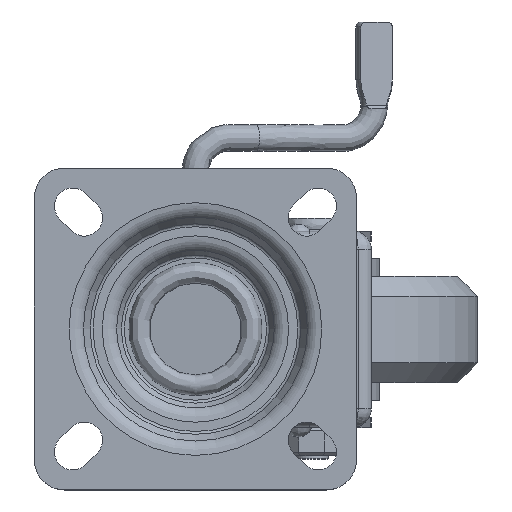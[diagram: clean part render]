
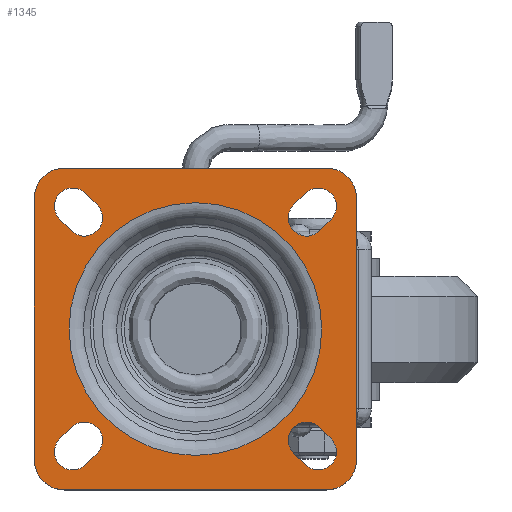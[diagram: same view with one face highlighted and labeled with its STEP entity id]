
A CAD part, top view. The second image highlights one B-rep face of the part: STEP entity #1345.
In plain terms, the highlighted planar face has unit normal (0, 0, 1).
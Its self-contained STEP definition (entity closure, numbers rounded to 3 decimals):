
#1345=ADVANCED_FACE('',(#3243,#3244,#3245,#3246,#3247,#3248),#1745,.F.);
#1745=PLANE('',#9476);
#2213=LINE('',#18009,#2788);
#2214=LINE('',#18014,#2789);
#2215=LINE('',#18020,#2790);
#2216=LINE('',#18024,#2791);
#2217=LINE('',#18027,#2792);
#2218=LINE('',#18032,#2793);
#2219=LINE('',#18036,#2794);
#2220=LINE('',#18040,#2795);
#2221=LINE('',#18046,#2796);
#2222=LINE('',#18050,#2797);
#2223=LINE('',#18051,#2798);
#2224=LINE('',#18056,#2799);
#2788=VECTOR('',#10875,1.);
#2789=VECTOR('',#10878,1.);
#2790=VECTOR('',#10883,1.);
#2791=VECTOR('',#10886,1.);
#2792=VECTOR('',#10889,1.);
#2793=VECTOR('',#10892,1.);
#2794=VECTOR('',#10895,1.);
#2795=VECTOR('',#10898,1.);
#2796=VECTOR('',#10903,1.);
#2797=VECTOR('',#10906,1.);
#2798=VECTOR('',#10907,1.);
#2799=VECTOR('',#10910,1.);
#3243=FACE_BOUND('',#3617,.T.);
#3244=FACE_BOUND('',#3618,.T.);
#3245=FACE_BOUND('',#3619,.T.);
#3246=FACE_BOUND('',#3620,.T.);
#3247=FACE_BOUND('',#3621,.T.);
#3248=FACE_BOUND('',#3622,.T.);
#3617=EDGE_LOOP('',(#5176,#5177,#5178,#5179));
#3618=EDGE_LOOP('',(#5180,#5181,#5182,#5183));
#3619=EDGE_LOOP('',(#5184));
#3620=EDGE_LOOP('',(#5185,#5186,#5187,#5188,#5189,#5190,#5191,#5192));
#3621=EDGE_LOOP('',(#5193,#5194,#5195,#5196));
#3622=EDGE_LOOP('',(#5197,#5198,#5199,#5200));
#5176=ORIENTED_EDGE('',*,*,#8186,.F.);
#5177=ORIENTED_EDGE('',*,*,#8187,.F.);
#5178=ORIENTED_EDGE('',*,*,#8188,.F.);
#5179=ORIENTED_EDGE('',*,*,#8189,.F.);
#5180=ORIENTED_EDGE('',*,*,#8190,.T.);
#5181=ORIENTED_EDGE('',*,*,#8191,.T.);
#5182=ORIENTED_EDGE('',*,*,#8192,.T.);
#5183=ORIENTED_EDGE('',*,*,#8193,.T.);
#5184=ORIENTED_EDGE('',*,*,#8194,.F.);
#5185=ORIENTED_EDGE('',*,*,#8195,.T.);
#5186=ORIENTED_EDGE('',*,*,#8196,.T.);
#5187=ORIENTED_EDGE('',*,*,#8197,.T.);
#5188=ORIENTED_EDGE('',*,*,#8198,.T.);
#5189=ORIENTED_EDGE('',*,*,#8199,.F.);
#5190=ORIENTED_EDGE('',*,*,#8200,.T.);
#5191=ORIENTED_EDGE('',*,*,#8201,.T.);
#5192=ORIENTED_EDGE('',*,*,#8202,.T.);
#5193=ORIENTED_EDGE('',*,*,#8203,.T.);
#5194=ORIENTED_EDGE('',*,*,#8204,.T.);
#5195=ORIENTED_EDGE('',*,*,#8205,.T.);
#5196=ORIENTED_EDGE('',*,*,#8206,.T.);
#5197=ORIENTED_EDGE('',*,*,#8207,.F.);
#5198=ORIENTED_EDGE('',*,*,#8208,.F.);
#5199=ORIENTED_EDGE('',*,*,#8209,.F.);
#5200=ORIENTED_EDGE('',*,*,#8210,.F.);
#7137=VERTEX_POINT('',#18010);
#7138=VERTEX_POINT('',#18011);
#7139=VERTEX_POINT('',#18013);
#7140=VERTEX_POINT('',#18015);
#7141=VERTEX_POINT('',#18018);
#7142=VERTEX_POINT('',#18019);
#7143=VERTEX_POINT('',#18021);
#7144=VERTEX_POINT('',#18023);
#7145=VERTEX_POINT('',#18026);
#7146=VERTEX_POINT('',#18028);
#7147=VERTEX_POINT('',#18029);
#7148=VERTEX_POINT('',#18031);
#7149=VERTEX_POINT('',#18033);
#7150=VERTEX_POINT('',#18035);
#7151=VERTEX_POINT('',#18037);
#7152=VERTEX_POINT('',#18039);
#7153=VERTEX_POINT('',#18041);
#7154=VERTEX_POINT('',#18044);
#7155=VERTEX_POINT('',#18045);
#7156=VERTEX_POINT('',#18047);
#7157=VERTEX_POINT('',#18049);
#7158=VERTEX_POINT('',#18052);
#7159=VERTEX_POINT('',#18053);
#7160=VERTEX_POINT('',#18055);
#7161=VERTEX_POINT('',#18057);
#8186=EDGE_CURVE('',#7137,#7138,#2213,.T.);
#8187=EDGE_CURVE('',#7139,#7137,#8977,.T.);
#8188=EDGE_CURVE('',#7140,#7139,#2214,.T.);
#8189=EDGE_CURVE('',#7138,#7140,#8978,.T.);
#8190=EDGE_CURVE('',#7141,#7142,#8979,.T.);
#8191=EDGE_CURVE('',#7142,#7143,#2215,.T.);
#8192=EDGE_CURVE('',#7143,#7144,#8980,.T.);
#8193=EDGE_CURVE('',#7144,#7141,#2216,.T.);
#8194=EDGE_CURVE('',#7145,#7145,#8981,.T.);
#8195=EDGE_CURVE('',#7146,#7147,#2217,.T.);
#8196=EDGE_CURVE('',#7147,#7148,#8982,.T.);
#8197=EDGE_CURVE('',#7148,#7149,#2218,.T.);
#8198=EDGE_CURVE('',#7149,#7150,#8983,.T.);
#8199=EDGE_CURVE('',#7151,#7150,#2219,.T.);
#8200=EDGE_CURVE('',#7151,#7152,#8984,.T.);
#8201=EDGE_CURVE('',#7152,#7153,#2220,.T.);
#8202=EDGE_CURVE('',#7153,#7146,#8985,.T.);
#8203=EDGE_CURVE('',#7154,#7155,#8986,.T.);
#8204=EDGE_CURVE('',#7155,#7156,#2221,.T.);
#8205=EDGE_CURVE('',#7156,#7157,#8987,.T.);
#8206=EDGE_CURVE('',#7157,#7154,#2222,.T.);
#8207=EDGE_CURVE('',#7158,#7159,#2223,.T.);
#8208=EDGE_CURVE('',#7160,#7158,#8988,.T.);
#8209=EDGE_CURVE('',#7161,#7160,#2224,.T.);
#8210=EDGE_CURVE('',#7159,#7161,#8989,.T.);
#8977=CIRCLE('',#9463,5.5);
#8978=CIRCLE('',#9464,5.5);
#8979=CIRCLE('',#9465,5.5);
#8980=CIRCLE('',#9466,5.5);
#8981=CIRCLE('',#9467,38.077);
#8982=CIRCLE('',#9468,9.);
#8983=CIRCLE('',#9469,9.);
#8984=CIRCLE('',#9470,9.);
#8985=CIRCLE('',#9471,9.);
#8986=CIRCLE('',#9472,5.5);
#8987=CIRCLE('',#9473,5.5);
#8988=CIRCLE('',#9474,5.5);
#8989=CIRCLE('',#9475,5.5);
#9463=AXIS2_PLACEMENT_3D('',#18012,#10876,#10877);
#9464=AXIS2_PLACEMENT_3D('',#18016,#10879,#10880);
#9465=AXIS2_PLACEMENT_3D('',#18017,#10881,#10882);
#9466=AXIS2_PLACEMENT_3D('',#18022,#10884,#10885);
#9467=AXIS2_PLACEMENT_3D('',#18025,#10887,#10888);
#9468=AXIS2_PLACEMENT_3D('',#18030,#10890,#10891);
#9469=AXIS2_PLACEMENT_3D('',#18034,#10893,#10894);
#9470=AXIS2_PLACEMENT_3D('',#18038,#10896,#10897);
#9471=AXIS2_PLACEMENT_3D('',#18042,#10899,#10900);
#9472=AXIS2_PLACEMENT_3D('',#18043,#10901,#10902);
#9473=AXIS2_PLACEMENT_3D('',#18048,#10904,#10905);
#9474=AXIS2_PLACEMENT_3D('',#18054,#10908,#10909);
#9475=AXIS2_PLACEMENT_3D('',#18058,#10911,#10912);
#9476=AXIS2_PLACEMENT_3D('',#18059,#10913,#10914);
#10875=DIRECTION('',(-0.707,0.707,0.));
#10876=DIRECTION('',(0.,0.,1.));
#10877=DIRECTION('',(1.,0.,0.));
#10878=DIRECTION('',(0.707,-0.707,0.));
#10879=DIRECTION('',(0.,0.,1.));
#10880=DIRECTION('',(1.,0.,0.));
#10881=DIRECTION('',(0.,0.,-1.));
#10882=DIRECTION('',(1.,0.,0.));
#10883=DIRECTION('',(-0.707,-0.707,0.));
#10884=DIRECTION('',(0.,0.,-1.));
#10885=DIRECTION('',(1.,0.,0.));
#10886=DIRECTION('',(0.707,0.707,0.));
#10887=DIRECTION('',(0.,0.,1.));
#10888=DIRECTION('',(0.,1.,0.));
#10889=DIRECTION('',(0.,-1.,0.));
#10890=DIRECTION('',(0.,0.,1.));
#10891=DIRECTION('',(1.,0.,0.));
#10892=DIRECTION('',(1.,0.,0.));
#10893=DIRECTION('',(0.,0.,1.));
#10894=DIRECTION('',(1.,0.,0.));
#10895=DIRECTION('',(0.,-1.,0.));
#10896=DIRECTION('',(0.,0.,1.));
#10897=DIRECTION('',(1.,0.,0.));
#10898=DIRECTION('',(-1.,0.,0.));
#10899=DIRECTION('',(0.,0.,1.));
#10900=DIRECTION('',(1.,0.,0.));
#10901=DIRECTION('',(0.,0.,-1.));
#10902=DIRECTION('',(1.,0.,0.));
#10903=DIRECTION('',(-0.707,-0.707,0.));
#10904=DIRECTION('',(0.,0.,-1.));
#10905=DIRECTION('',(1.,0.,0.));
#10906=DIRECTION('',(0.707,0.707,0.));
#10907=DIRECTION('',(-0.707,0.707,0.));
#10908=DIRECTION('',(0.,0.,1.));
#10909=DIRECTION('',(1.,0.,0.));
#10910=DIRECTION('',(0.707,-0.707,0.));
#10911=DIRECTION('',(0.,0.,1.));
#10912=DIRECTION('',(1.,0.,0.));
#10913=DIRECTION('',(0.,0.,-1.));
#10914=DIRECTION('',(0.,1.,0.));
#18009=CARTESIAN_POINT('',(-20.361,28.139,0.));
#18010=CARTESIAN_POINT('',(-29.611,37.389,0.));
#18011=CARTESIAN_POINT('',(-33.111,40.889,0.));
#18012=CARTESIAN_POINT('',(-33.5,33.5,0.));
#18013=CARTESIAN_POINT('',(-37.389,29.611,0.));
#18014=CARTESIAN_POINT('',(-28.139,20.361,0.));
#18015=CARTESIAN_POINT('',(-40.889,33.111,0.));
#18016=CARTESIAN_POINT('',(-37.,37.,0.));
#18017=CARTESIAN_POINT('',(-33.5,-33.5,0.));
#18018=CARTESIAN_POINT('',(-37.389,-29.611,0.));
#18019=CARTESIAN_POINT('',(-29.611,-37.389,0.));
#18020=CARTESIAN_POINT('',(-20.361,-28.139,0.));
#18021=CARTESIAN_POINT('',(-33.111,-40.889,0.));
#18022=CARTESIAN_POINT('',(-37.,-37.,0.));
#18023=CARTESIAN_POINT('',(-40.889,-33.111,0.));
#18024=CARTESIAN_POINT('',(-28.139,-20.361,0.));
#18025=CARTESIAN_POINT('',(0.,0.,0.));
#18026=CARTESIAN_POINT('',(0.,38.077,0.));
#18027=CARTESIAN_POINT('',(-48.5,48.5,0.));
#18028=CARTESIAN_POINT('',(-48.5,39.5,0.));
#18029=CARTESIAN_POINT('',(-48.5,-39.5,0.));
#18030=CARTESIAN_POINT('',(-39.5,-39.5,0.));
#18031=CARTESIAN_POINT('',(-39.5,-48.5,0.));
#18032=CARTESIAN_POINT('',(0.,-48.5,0.));
#18033=CARTESIAN_POINT('',(39.5,-48.5,0.));
#18034=CARTESIAN_POINT('',(39.5,-39.5,0.));
#18035=CARTESIAN_POINT('',(48.5,-39.5,0.));
#18036=CARTESIAN_POINT('',(48.5,48.5,0.));
#18037=CARTESIAN_POINT('',(48.5,39.5,0.));
#18038=CARTESIAN_POINT('',(39.5,39.5,0.));
#18039=CARTESIAN_POINT('',(39.5,48.5,0.));
#18040=CARTESIAN_POINT('',(0.,48.5,0.));
#18041=CARTESIAN_POINT('',(-39.5,48.5,0.));
#18042=CARTESIAN_POINT('',(-39.5,39.5,0.));
#18043=CARTESIAN_POINT('',(37.,37.,0.));
#18044=CARTESIAN_POINT('',(33.111,40.889,0.));
#18045=CARTESIAN_POINT('',(40.889,33.111,0.));
#18046=CARTESIAN_POINT('',(-20.361,-28.139,0.));
#18047=CARTESIAN_POINT('',(37.389,29.611,0.));
#18048=CARTESIAN_POINT('',(33.5,33.5,0.));
#18049=CARTESIAN_POINT('',(29.611,37.389,0.));
#18050=CARTESIAN_POINT('',(-28.139,-20.361,0.));
#18051=CARTESIAN_POINT('',(-20.361,28.139,0.));
#18052=CARTESIAN_POINT('',(40.889,-33.111,0.));
#18053=CARTESIAN_POINT('',(37.389,-29.611,0.));
#18054=CARTESIAN_POINT('',(37.,-37.,0.));
#18055=CARTESIAN_POINT('',(33.111,-40.889,0.));
#18056=CARTESIAN_POINT('',(-28.139,20.361,0.));
#18057=CARTESIAN_POINT('',(29.611,-37.389,0.));
#18058=CARTESIAN_POINT('',(33.5,-33.5,0.));
#18059=CARTESIAN_POINT('',(-48.5,0.,0.));
